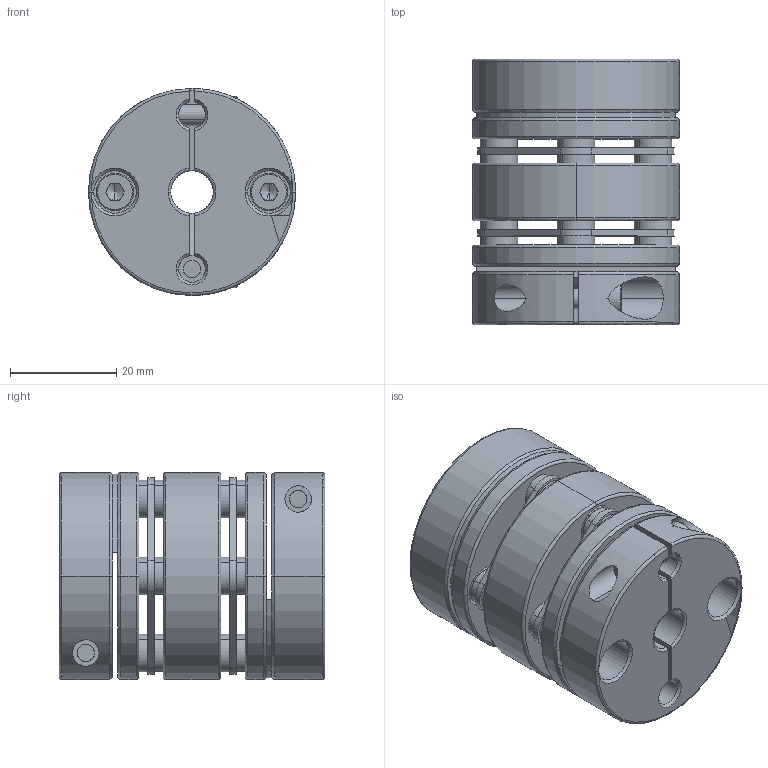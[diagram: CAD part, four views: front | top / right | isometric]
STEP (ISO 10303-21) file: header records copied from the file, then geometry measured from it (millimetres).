
FILE_DESCRIPTION (( 'STEP AP203' ), '1' );
FILE_NAME ('DXC-39X50-8-8.STEP', '2024-03-16T06:57:13', ( '' ), ( '' ), 'SwSTEP 2.0', 'SolidWorks 2020', '' );
FILE_SCHEMA (( 'CONFIG_CONTROL_DESIGN' ));
Length unit declared in the file: millimetre
Products named in the file (6): DXC-39X50-8-8; socket head cap screw_iso_ISO 4762 M4 x 12 - 12C; socket head cap screw_iso_ISO 4762 M4 x 8 - 8C; 39臚え薊粣ん傷裔; 39臚え倰笢潔璃; 39臚え郪
Assembly tree (15 placements, depth 2):
  DXC-39X50-8-8
    39臚え倰笢潔璃
    39臚え郪  x2
    39臚え薊粣ん傷裔  x2
    socket head cap screw_iso_ISO 4762 M4 x 8 - 8C  x8
    socket head cap screw_iso_ISO 4762 M4 x 12 - 12C  x2
Bounding box: 39 x 50 x 39 mm (x, y, z)
Volume: 40088.3 mm3; surface area: 24445.9 mm2
Topology: 15 solids, 15 shells, 544 faces, 1266 edges, 766 vertices
Faces by surface type: plane 216, cylinder 190, cone 70, torus 68
Entity records: 7167 total; most frequent: CARTESIAN_POINT 1309, DIRECTION 1149, ORIENTED_EDGE 962, EDGE_CURVE 481, AXIS2_PLACEMENT_3D 474, VERTEX_POINT 300, CIRCLE 254, EDGE_LOOP 251
